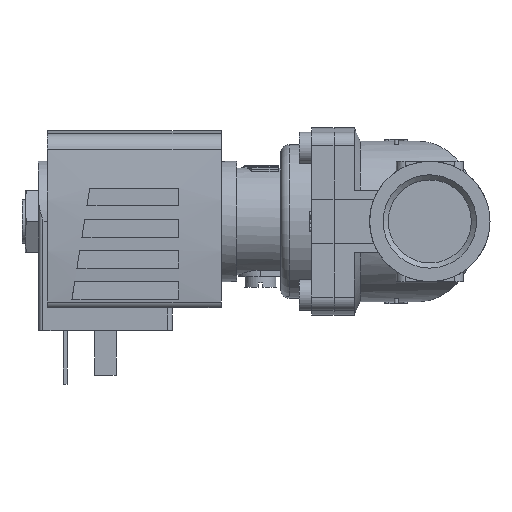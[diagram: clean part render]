
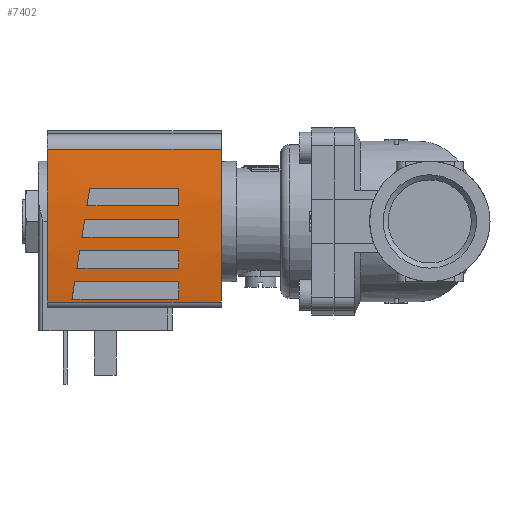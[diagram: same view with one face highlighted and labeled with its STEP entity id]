
A CAD part, left-side view. The second image highlights one B-rep face of the part: STEP entity #7402.
In plain terms, the highlighted cylindrical face has radius 130 mm (diameter 260 mm), a partial arc.
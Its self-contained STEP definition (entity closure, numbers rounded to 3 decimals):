
#161=ELLIPSE('',#8010,131.653,130.);
#162=ELLIPSE('',#8012,131.653,130.);
#163=ELLIPSE('',#8015,131.653,130.);
#164=ELLIPSE('',#8017,131.653,130.);
#830=LINE('',#11592,#1364);
#832=LINE('',#11612,#1366);
#833=LINE('',#11616,#1367);
#834=LINE('',#11617,#1368);
#835=LINE('',#11622,#1369);
#836=LINE('',#11627,#1370);
#837=LINE('',#11631,#1371);
#838=LINE('',#11635,#1372);
#839=LINE('',#11639,#1373);
#840=LINE('',#11643,#1374);
#1364=VECTOR('',#9537,1000.);
#1366=VECTOR('',#9559,1000.);
#1367=VECTOR('',#9562,1000.);
#1368=VECTOR('',#9563,1000.);
#1369=VECTOR('',#9566,1000.);
#1370=VECTOR('',#9571,1000.);
#1371=VECTOR('',#9574,1000.);
#1372=VECTOR('',#9577,1000.);
#1373=VECTOR('',#9580,1000.);
#1374=VECTOR('',#9583,1000.);
#2854=ORIENTED_EDGE('',*,*,#3944,.F.);
#2855=ORIENTED_EDGE('',*,*,#3945,.F.);
#2856=ORIENTED_EDGE('',*,*,#3946,.F.);
#2857=ORIENTED_EDGE('',*,*,#3947,.F.);
#2858=ORIENTED_EDGE('',*,*,#3948,.F.);
#2859=ORIENTED_EDGE('',*,*,#3949,.F.);
#2860=ORIENTED_EDGE('',*,*,#3950,.F.);
#2861=ORIENTED_EDGE('',*,*,#3951,.F.);
#2862=ORIENTED_EDGE('',*,*,#3952,.T.);
#2863=ORIENTED_EDGE('',*,*,#3953,.F.);
#2864=ORIENTED_EDGE('',*,*,#3938,.F.);
#2865=ORIENTED_EDGE('',*,*,#3935,.T.);
#2866=ORIENTED_EDGE('',*,*,#3954,.F.);
#2867=ORIENTED_EDGE('',*,*,#3955,.F.);
#2868=ORIENTED_EDGE('',*,*,#3956,.F.);
#2869=ORIENTED_EDGE('',*,*,#3957,.F.);
#2870=ORIENTED_EDGE('',*,*,#3958,.F.);
#2871=ORIENTED_EDGE('',*,*,#3959,.F.);
#2872=ORIENTED_EDGE('',*,*,#3960,.F.);
#2873=ORIENTED_EDGE('',*,*,#3961,.F.);
#3935=EDGE_CURVE('',#4588,#4587,#830,.T.);
#3938=EDGE_CURVE('',#4588,#4590,#4887,.T.);
#3944=EDGE_CURVE('',#4594,#4595,#161,.T.);
#3945=EDGE_CURVE('',#4596,#4594,#832,.F.);
#3946=EDGE_CURVE('',#4597,#4596,#4892,.T.);
#3947=EDGE_CURVE('',#4595,#4597,#833,.T.);
#3948=EDGE_CURVE('',#4598,#4599,#834,.T.);
#3949=EDGE_CURVE('',#4600,#4598,#162,.T.);
#3950=EDGE_CURVE('',#4601,#4600,#835,.F.);
#3951=EDGE_CURVE('',#4599,#4601,#4893,.T.);
#3952=EDGE_CURVE('',#4587,#4602,#4894,.T.);
#3953=EDGE_CURVE('',#4590,#4602,#836,.T.);
#3954=EDGE_CURVE('',#4603,#4604,#163,.T.);
#3955=EDGE_CURVE('',#4605,#4603,#837,.F.);
#3956=EDGE_CURVE('',#4606,#4605,#4895,.T.);
#3957=EDGE_CURVE('',#4604,#4606,#838,.T.);
#3958=EDGE_CURVE('',#4607,#4608,#164,.T.);
#3959=EDGE_CURVE('',#4609,#4607,#839,.F.);
#3960=EDGE_CURVE('',#4610,#4609,#4896,.T.);
#3961=EDGE_CURVE('',#4608,#4610,#840,.T.);
#4587=VERTEX_POINT('',#11591);
#4588=VERTEX_POINT('',#11593);
#4590=VERTEX_POINT('',#11599);
#4594=VERTEX_POINT('',#11610);
#4595=VERTEX_POINT('',#11611);
#4596=VERTEX_POINT('',#11613);
#4597=VERTEX_POINT('',#11615);
#4598=VERTEX_POINT('',#11618);
#4599=VERTEX_POINT('',#11619);
#4600=VERTEX_POINT('',#11621);
#4601=VERTEX_POINT('',#11623);
#4602=VERTEX_POINT('',#11626);
#4603=VERTEX_POINT('',#11629);
#4604=VERTEX_POINT('',#11630);
#4605=VERTEX_POINT('',#11632);
#4606=VERTEX_POINT('',#11634);
#4607=VERTEX_POINT('',#11637);
#4608=VERTEX_POINT('',#11638);
#4609=VERTEX_POINT('',#11640);
#4610=VERTEX_POINT('',#11642);
#4887=CIRCLE('',#8004,130.);
#4892=CIRCLE('',#8011,130.);
#4893=CIRCLE('',#8013,130.);
#4894=CIRCLE('',#8014,130.);
#4895=CIRCLE('',#8016,130.);
#4896=CIRCLE('',#8018,130.);
#5228=EDGE_LOOP('',(#2854,#2855,#2856,#2857));
#5229=EDGE_LOOP('',(#2858,#2859,#2860,#2861));
#5230=EDGE_LOOP('',(#2862,#2863,#2864,#2865));
#5231=EDGE_LOOP('',(#2866,#2867,#2868,#2869));
#5232=EDGE_LOOP('',(#2870,#2871,#2872,#2873));
#5638=FACE_BOUND('',#5228,.T.);
#5639=FACE_BOUND('',#5229,.T.);
#5640=FACE_BOUND('',#5230,.T.);
#5641=FACE_BOUND('',#5231,.T.);
#5642=FACE_BOUND('',#5232,.T.);
#5817=CYLINDRICAL_SURFACE('',#8009,130.);
#7402=ADVANCED_FACE('',(#5638,#5639,#5640,#5641,#5642),#5817,.T.);
#8004=AXIS2_PLACEMENT_3D('',#11598,#9544,#9545);
#8009=AXIS2_PLACEMENT_3D('',#11608,#9555,#9556);
#8010=AXIS2_PLACEMENT_3D('',#11609,#9557,#9558);
#8011=AXIS2_PLACEMENT_3D('',#11614,#9560,#9561);
#8012=AXIS2_PLACEMENT_3D('',#11620,#9564,#9565);
#8013=AXIS2_PLACEMENT_3D('',#11624,#9567,#9568);
#8014=AXIS2_PLACEMENT_3D('',#11625,#9569,#9570);
#8015=AXIS2_PLACEMENT_3D('',#11628,#9572,#9573);
#8016=AXIS2_PLACEMENT_3D('',#11633,#9575,#9576);
#8017=AXIS2_PLACEMENT_3D('',#11636,#9578,#9579);
#8018=AXIS2_PLACEMENT_3D('',#11641,#9581,#9582);
#9537=DIRECTION('',(0.,-1.,0.));
#9544=DIRECTION('',(0.,1.,0.));
#9545=DIRECTION('',(1.,0.,0.));
#9555=DIRECTION('',(0.,-1.,0.));
#9556=DIRECTION('',(0.,0.,-1.));
#9557=DIRECTION('',(-0.158,-0.987,0.));
#9558=DIRECTION('',(0.987,-0.158,0.));
#9559=DIRECTION('',(0.,-1.,0.));
#9560=DIRECTION('',(0.,1.,0.));
#9561=DIRECTION('',(0.,0.,1.));
#9562=DIRECTION('',(0.,-1.,0.));
#9563=DIRECTION('',(0.,-1.,0.));
#9564=DIRECTION('',(-0.158,-0.987,0.));
#9565=DIRECTION('',(0.987,-0.158,0.));
#9566=DIRECTION('',(0.,-1.,0.));
#9567=DIRECTION('',(0.,1.,0.));
#9568=DIRECTION('',(0.,0.,1.));
#9569=DIRECTION('',(0.,1.,0.));
#9570=DIRECTION('',(1.,0.,0.));
#9571=DIRECTION('',(0.,-1.,0.));
#9572=DIRECTION('',(-0.158,-0.987,0.));
#9573=DIRECTION('',(0.987,-0.158,0.));
#9574=DIRECTION('',(0.,-1.,0.));
#9575=DIRECTION('',(0.,1.,0.));
#9576=DIRECTION('',(0.,0.,1.));
#9577=DIRECTION('',(0.,-1.,0.));
#9578=DIRECTION('',(-0.158,-0.987,0.));
#9579=DIRECTION('',(0.987,-0.158,0.));
#9580=DIRECTION('',(0.,-1.,0.));
#9581=DIRECTION('',(0.,1.,0.));
#9582=DIRECTION('',(0.,0.,1.));
#9583=DIRECTION('',(0.,-1.,0.));
#11591=CARTESIAN_POINT('',(-18.071,-26.,14.738));
#11592=CARTESIAN_POINT('',(-18.071,13.,14.738));
#11593=CARTESIAN_POINT('',(-18.071,13.,14.738));
#11598=CARTESIAN_POINT('',(0.,13.,-114.));
#11599=CARTESIAN_POINT('',(16.195,13.,14.987));
#11608=CARTESIAN_POINT('',(0.,13.,-114.));
#11609=CARTESIAN_POINT('',(0.,4.7,-114.));
#11610=CARTESIAN_POINT('',(0.5,4.62,15.999));
#11611=CARTESIAN_POINT('',(-3.5,5.26,15.953));
#11612=CARTESIAN_POINT('',(0.5,13.,15.999));
#11613=CARTESIAN_POINT('',(0.5,-16.5,15.999));
#11614=CARTESIAN_POINT('',(0.,-16.5,-114.));
#11615=CARTESIAN_POINT('',(-3.5,-16.5,15.953));
#11616=CARTESIAN_POINT('',(-3.5,13.,15.953));
#11617=CARTESIAN_POINT('',(-17.5,13.,14.817));
#11618=CARTESIAN_POINT('',(-17.5,7.5,14.817));
#11619=CARTESIAN_POINT('',(-17.5,-16.5,14.817));
#11620=CARTESIAN_POINT('',(0.,4.7,-114.));
#11621=CARTESIAN_POINT('',(-13.5,6.86,15.297));
#11622=CARTESIAN_POINT('',(-13.5,13.,15.297));
#11623=CARTESIAN_POINT('',(-13.5,-16.5,15.297));
#11624=CARTESIAN_POINT('',(0.,-16.5,-114.));
#11625=CARTESIAN_POINT('',(0.,-26.,-114.));
#11626=CARTESIAN_POINT('',(16.195,-26.,14.987));
#11627=CARTESIAN_POINT('',(16.195,13.,14.987));
#11628=CARTESIAN_POINT('',(0.,4.7,-114.));
#11629=CARTESIAN_POINT('',(-6.5,5.74,15.837));
#11630=CARTESIAN_POINT('',(-10.5,6.38,15.575));
#11631=CARTESIAN_POINT('',(-6.5,13.,15.837));
#11632=CARTESIAN_POINT('',(-6.5,-16.5,15.837));
#11633=CARTESIAN_POINT('',(0.,-16.5,-114.));
#11634=CARTESIAN_POINT('',(-10.5,-16.5,15.575));
#11635=CARTESIAN_POINT('',(-10.5,13.,15.575));
#11636=CARTESIAN_POINT('',(0.,4.7,-114.));
#11637=CARTESIAN_POINT('',(7.5,3.5,15.783));
#11638=CARTESIAN_POINT('',(3.5,4.14,15.953));
#11639=CARTESIAN_POINT('',(7.5,13.,15.783));
#11640=CARTESIAN_POINT('',(7.5,-16.5,15.783));
#11641=CARTESIAN_POINT('',(0.,-16.5,-114.));
#11642=CARTESIAN_POINT('',(3.5,-16.5,15.953));
#11643=CARTESIAN_POINT('',(3.5,13.,15.953));
